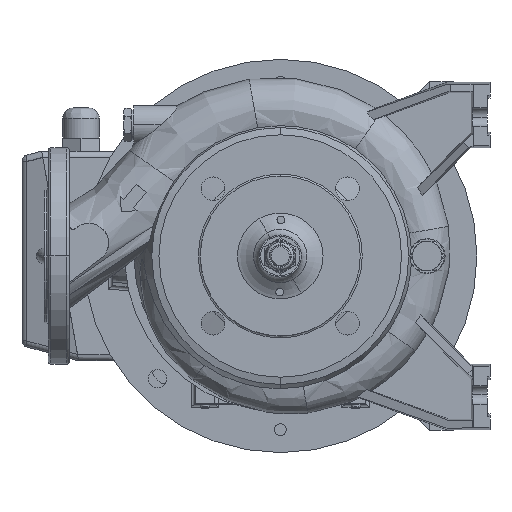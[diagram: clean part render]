
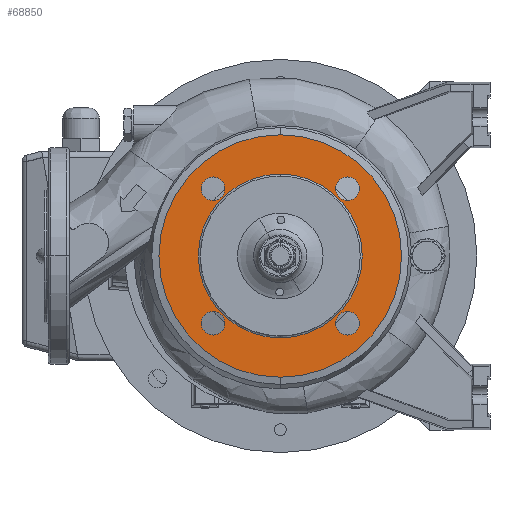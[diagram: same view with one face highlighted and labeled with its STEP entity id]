
A CAD part, left-side view. The second image highlights one B-rep face of the part: STEP entity #68850.
In plain terms, the highlighted planar face has unit normal (-1, 0, 0).
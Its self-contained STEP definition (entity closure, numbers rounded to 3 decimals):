
#533 = ORIENTED_EDGE ( 'NONE', *, *, #108387, .F. ) ;
#544 = DIRECTION ( 'NONE',  ( -1., 0., 0. ) ) ;
#635 = VERTEX_POINT ( 'NONE', #27690 ) ;
#730 = CARTESIAN_POINT ( 'NONE',  ( -181., 51.265, -42.265 ) ) ;
#5166 = DIRECTION ( 'NONE',  ( -1., 0., 0. ) ) ;
#6844 = EDGE_CURVE ( 'NONE', #98046, #113598, #72399, .T. ) ;
#9777 = CIRCLE ( 'NONE', #34138, 9. ) ;
#10373 = EDGE_CURVE ( 'NONE', #635, #35048, #117733, .T. ) ;
#10405 = ORIENTED_EDGE ( 'NONE', *, *, #57041, .F. ) ;
#11890 = CIRCLE ( 'NONE', #76099, 9. ) ;
#12441 = VERTEX_POINT ( 'NONE', #730 ) ;
#12698 = EDGE_CURVE ( 'NONE', #17501, #68289, #105622, .T. ) ;
#14014 = DIRECTION ( 'NONE',  ( -1., 0., 0. ) ) ;
#17075 = DIRECTION ( 'NONE',  ( 0., 0., 1. ) ) ;
#17501 = VERTEX_POINT ( 'NONE', #17547 ) ;
#17547 = CARTESIAN_POINT ( 'NONE',  ( -181., 0., -62.5 ) ) ;
#17848 = CARTESIAN_POINT ( 'NONE',  ( -181., 0., 0. ) ) ;
#17955 = DIRECTION ( 'NONE',  ( -1., 0., 0. ) ) ;
#19015 = ORIENTED_EDGE ( 'NONE', *, *, #116549, .T. ) ;
#21901 = CIRCLE ( 'NONE', #67318, 92.5 ) ;
#22749 = ORIENTED_EDGE ( 'NONE', *, *, #36381, .T. ) ;
#23136 = CARTESIAN_POINT ( 'NONE',  ( -181., -51.265, 51.265 ) ) ;
#24298 = EDGE_CURVE ( 'NONE', #45355, #36616, #102072, .T. ) ;
#25117 = VERTEX_POINT ( 'NONE', #66024 ) ;
#27690 = CARTESIAN_POINT ( 'NONE',  ( -181., -51.265, 60.265 ) ) ;
#27938 = FACE_OUTER_BOUND ( 'NONE', #67092, .T. ) ;
#28431 = EDGE_CURVE ( 'NONE', #25117, #47846, #115806, .T. ) ;
#33603 = DIRECTION ( 'NONE',  ( 0., 0., 1. ) ) ;
#34138 = AXIS2_PLACEMENT_3D ( 'NONE', #46369, #17955, #82808 ) ;
#35048 = VERTEX_POINT ( 'NONE', #71555 ) ;
#35162 = CIRCLE ( 'NONE', #66070, 9. ) ;
#35805 = CIRCLE ( 'NONE', #67807, 62.5 ) ;
#35872 = DIRECTION ( 'NONE',  ( 0., 0., 1. ) ) ;
#36381 = EDGE_CURVE ( 'NONE', #47846, #25117, #21901, .T. ) ;
#36555 = DIRECTION ( 'NONE',  ( 0., 0., 1. ) ) ;
#36616 = VERTEX_POINT ( 'NONE', #75120 ) ;
#37752 = CARTESIAN_POINT ( 'NONE',  ( -181., -51.265, -51.265 ) ) ;
#38193 = AXIS2_PLACEMENT_3D ( 'NONE', #89153, #117538, #35872 ) ;
#39451 = DIRECTION ( 'NONE',  ( 0., 0., 1. ) ) ;
#40693 = ORIENTED_EDGE ( 'NONE', *, *, #85670, .F. ) ;
#42248 = FACE_BOUND ( 'NONE', #94899, .T. ) ;
#43264 = EDGE_CURVE ( 'NONE', #35048, #635, #11890, .T. ) ;
#45355 = VERTEX_POINT ( 'NONE', #98155 ) ;
#46369 = CARTESIAN_POINT ( 'NONE',  ( -181., -51.265, -51.265 ) ) ;
#47627 = AXIS2_PLACEMENT_3D ( 'NONE', #53937, #54328, #110341 ) ;
#47846 = VERTEX_POINT ( 'NONE', #68419 ) ;
#49510 = FACE_BOUND ( 'NONE', #78416, .T. ) ;
#52735 = FACE_BOUND ( 'NONE', #118852, .T. ) ;
#53937 = CARTESIAN_POINT ( 'NONE',  ( -181., 0., 0. ) ) ;
#54328 = DIRECTION ( 'NONE',  ( -1., 0., 0. ) ) ;
#54684 = DIRECTION ( 'NONE',  ( -1., 0., 0. ) ) ;
#57041 = EDGE_CURVE ( 'NONE', #113598, #98046, #35162, .T. ) ;
#58158 = AXIS2_PLACEMENT_3D ( 'NONE', #37752, #544, #36555 ) ;
#59657 = DIRECTION ( 'NONE',  ( 1., 0., 0. ) ) ;
#59977 = DIRECTION ( 'NONE',  ( -1., 0., 0. ) ) ;
#60903 = ORIENTED_EDGE ( 'NONE', *, *, #6844, .F. ) ;
#62470 = VERTEX_POINT ( 'NONE', #83196 ) ;
#62945 = EDGE_CURVE ( 'NONE', #12441, #62470, #113140, .T. ) ;
#64899 = DIRECTION ( 'NONE',  ( -1., 0., 0. ) ) ;
#65252 = FACE_BOUND ( 'NONE', #74709, .T. ) ;
#65539 = AXIS2_PLACEMENT_3D ( 'NONE', #113331, #14014, #77725 ) ;
#66024 = CARTESIAN_POINT ( 'NONE',  ( -181., 0., 92.5 ) ) ;
#66070 = AXIS2_PLACEMENT_3D ( 'NONE', #114495, #5166, #33603 ) ;
#67092 = EDGE_LOOP ( 'NONE', ( #103434, #22749 ) ) ;
#67106 = CARTESIAN_POINT ( 'NONE',  ( -181., 51.265, 51.265 ) ) ;
#67318 = AXIS2_PLACEMENT_3D ( 'NONE', #17848, #54684, #17075 ) ;
#67807 = AXIS2_PLACEMENT_3D ( 'NONE', #112465, #94424, #95596 ) ;
#68289 = VERTEX_POINT ( 'NONE', #77105 ) ;
#68419 = CARTESIAN_POINT ( 'NONE',  ( -181., 0., -92.5 ) ) ;
#68850 = ADVANCED_FACE ( 'NONE', ( #49510, #52735, #92461, #42248, #65252, #27938 ), #106756, .T. ) ;
#71496 = DIRECTION ( 'NONE',  ( 0., 0., 1. ) ) ;
#71555 = CARTESIAN_POINT ( 'NONE',  ( -181., -51.265, 42.265 ) ) ;
#72399 = CIRCLE ( 'NONE', #78331, 9. ) ;
#73718 = ORIENTED_EDGE ( 'NONE', *, *, #62945, .F. ) ;
#74709 = EDGE_LOOP ( 'NONE', ( #93225, #19015 ) ) ;
#75120 = CARTESIAN_POINT ( 'NONE',  ( -181., -51.265, -42.265 ) ) ;
#76099 = AXIS2_PLACEMENT_3D ( 'NONE', #23136, #59977, #113254 ) ;
#76446 = AXIS2_PLACEMENT_3D ( 'NONE', #96078, #59657, #78121 ) ;
#77105 = CARTESIAN_POINT ( 'NONE',  ( -181., 0., 62.5 ) ) ;
#77122 = DIRECTION ( 'NONE',  ( -1., 0., 0. ) ) ;
#77324 = ORIENTED_EDGE ( 'NONE', *, *, #10373, .F. ) ;
#77725 = DIRECTION ( 'NONE',  ( 0., 0., 1. ) ) ;
#78121 = DIRECTION ( 'NONE',  ( 0., 0., -1. ) ) ;
#78331 = AXIS2_PLACEMENT_3D ( 'NONE', #67106, #77122, #39451 ) ;
#78416 = EDGE_LOOP ( 'NONE', ( #73718, #40693 ) ) ;
#80307 = CARTESIAN_POINT ( 'NONE',  ( -181., 51.265, -51.265 ) ) ;
#81302 = CARTESIAN_POINT ( 'NONE',  ( -181., 51.265, 60.265 ) ) ;
#82808 = DIRECTION ( 'NONE',  ( 0., 0., 1. ) ) ;
#83196 = CARTESIAN_POINT ( 'NONE',  ( -181., 51.265, -60.265 ) ) ;
#84714 = CARTESIAN_POINT ( 'NONE',  ( -181., 51.265, 42.265 ) ) ;
#85459 = ORIENTED_EDGE ( 'NONE', *, *, #43264, .F. ) ;
#85670 = EDGE_CURVE ( 'NONE', #62470, #12441, #114868, .T. ) ;
#89153 = CARTESIAN_POINT ( 'NONE',  ( -181., 62.5, 0. ) ) ;
#89768 = AXIS2_PLACEMENT_3D ( 'NONE', #110934, #64899, #101724 ) ;
#90705 = DIRECTION ( 'NONE',  ( -1., 0., 0. ) ) ;
#92461 = FACE_BOUND ( 'NONE', #116872, .T. ) ;
#93225 = ORIENTED_EDGE ( 'NONE', *, *, #12698, .T. ) ;
#94424 = DIRECTION ( 'NONE',  ( 1., 0., 0. ) ) ;
#94899 = EDGE_LOOP ( 'NONE', ( #60903, #10405 ) ) ;
#95596 = DIRECTION ( 'NONE',  ( 0., 0., -1. ) ) ;
#96078 = CARTESIAN_POINT ( 'NONE',  ( -181., 0., 0. ) ) ;
#98046 = VERTEX_POINT ( 'NONE', #81302 ) ;
#98155 = CARTESIAN_POINT ( 'NONE',  ( -181., -51.265, -60.265 ) ) ;
#101724 = DIRECTION ( 'NONE',  ( 0., 0., 1. ) ) ;
#102072 = CIRCLE ( 'NONE', #58158, 9. ) ;
#103434 = ORIENTED_EDGE ( 'NONE', *, *, #28431, .T. ) ;
#105622 = CIRCLE ( 'NONE', #76446, 62.5 ) ;
#106756 = PLANE ( 'NONE',  #38193 ) ;
#108387 = EDGE_CURVE ( 'NONE', #36616, #45355, #9777, .T. ) ;
#110341 = DIRECTION ( 'NONE',  ( 0., 0., 1. ) ) ;
#110934 = CARTESIAN_POINT ( 'NONE',  ( -181., 51.265, -51.265 ) ) ;
#112465 = CARTESIAN_POINT ( 'NONE',  ( -181., 0., 0. ) ) ;
#113140 = CIRCLE ( 'NONE', #116258, 9. ) ;
#113254 = DIRECTION ( 'NONE',  ( 0., 0., 1. ) ) ;
#113264 = ORIENTED_EDGE ( 'NONE', *, *, #24298, .F. ) ;
#113331 = CARTESIAN_POINT ( 'NONE',  ( -181., -51.265, 51.265 ) ) ;
#113598 = VERTEX_POINT ( 'NONE', #84714 ) ;
#114495 = CARTESIAN_POINT ( 'NONE',  ( -181., 51.265, 51.265 ) ) ;
#114868 = CIRCLE ( 'NONE', #89768, 9. ) ;
#115806 = CIRCLE ( 'NONE', #47627, 92.5 ) ;
#116258 = AXIS2_PLACEMENT_3D ( 'NONE', #80307, #90705, #71496 ) ;
#116549 = EDGE_CURVE ( 'NONE', #68289, #17501, #35805, .T. ) ;
#116872 = EDGE_LOOP ( 'NONE', ( #77324, #85459 ) ) ;
#117538 = DIRECTION ( 'NONE',  ( -1., 0., 0. ) ) ;
#117733 = CIRCLE ( 'NONE', #65539, 9. ) ;
#118852 = EDGE_LOOP ( 'NONE', ( #533, #113264 ) ) ;
